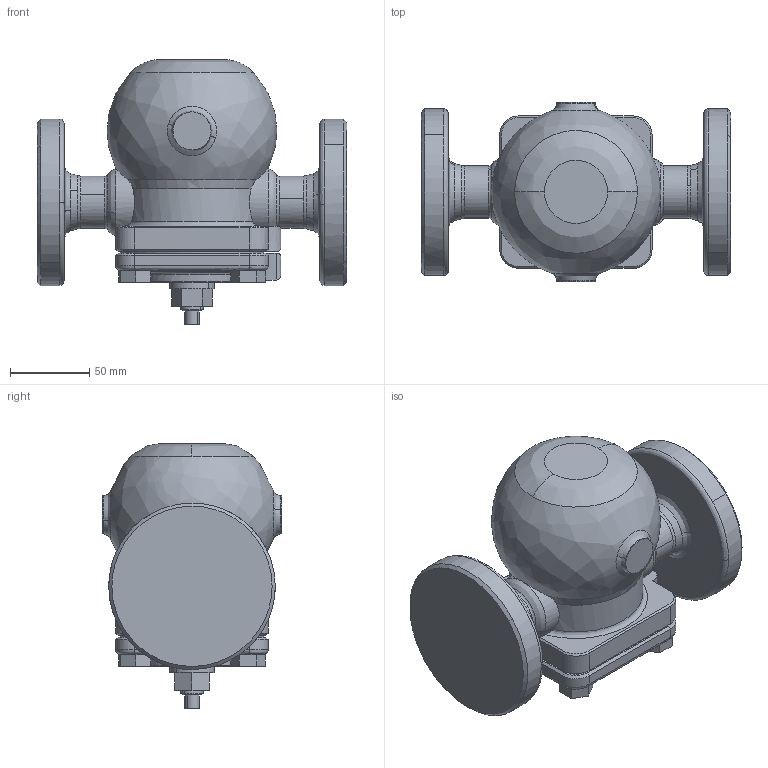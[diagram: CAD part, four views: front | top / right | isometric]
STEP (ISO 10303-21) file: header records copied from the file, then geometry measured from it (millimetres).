
FILE_DESCRIPTION((''),'2;1');
FILE_NAME('','2019-08-30T15:02:15',(''),(''),'','CADfix','');
FILE_SCHEMA(('AUTOMOTIVE_DESIGN { 1 0 10303 214 1 1 1 1 }'));
Length unit declared in the file: millimetre
Bounding box: 195 x 113 x 167 mm (x, y, z)
Volume: 1396593.2 mm3; surface area: 116160.6 mm2
Topology: 1 solids, 1 shells, 207 faces, 646 edges, 453 vertices
Faces by surface type: bspline 207
Entity records: 9851 total; most frequent: CARTESIAN_POINT 6103, ORIENTED_EDGE 1292, EDGE_CURVE 646, VERTEX_POINT 453, B_SPLINE_CURVE_WITH_KNOTS 308, QUASI_UNIFORM_CURVE 282, EDGE_LOOP 219, FACE_OUTER_BOUND 207
